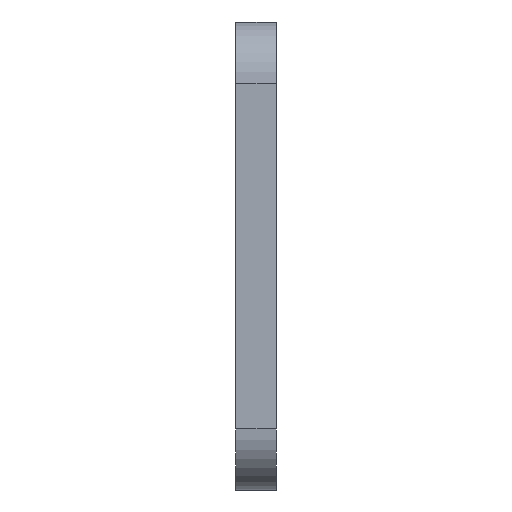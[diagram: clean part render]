
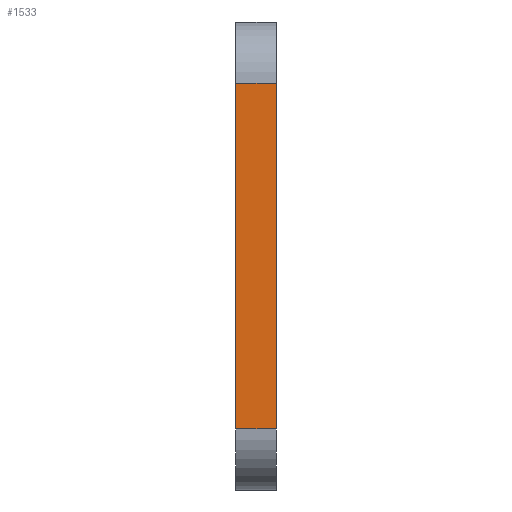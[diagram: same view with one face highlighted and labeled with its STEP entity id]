
A CAD part, left-side view. The second image highlights one B-rep face of the part: STEP entity #1533.
In plain terms, the highlighted planar face has unit normal (-1, 0, 0).
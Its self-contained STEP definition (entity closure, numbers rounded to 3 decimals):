
#33=DIRECTION('',(0.,0.,1.));
#34=VECTOR('',#33,8.5);
#35=CARTESIAN_POINT('',(-35.,0.,-4.25));
#36=LINE('',#35,#34);
#333=DIRECTION('',(0.,1.,0.));
#334=VECTOR('',#333,1.);
#335=CARTESIAN_POINT('',(-35.,0.,4.25));
#336=LINE('',#335,#334);
#337=DIRECTION('',(0.,1.,0.));
#338=VECTOR('',#337,1.);
#339=CARTESIAN_POINT('',(-35.,0.,-4.25));
#340=LINE('',#339,#338);
#370=DIRECTION('',(0.,0.,1.));
#371=VECTOR('',#370,8.5);
#372=CARTESIAN_POINT('',(-35.,1.,-4.25));
#373=LINE('',#372,#371);
#993=CARTESIAN_POINT('',(-35.,0.,4.25));
#995=VERTEX_POINT('',#993);
#1007=CARTESIAN_POINT('',(-35.,0.,-4.25));
#1008=VERTEX_POINT('',#1007);
#1157=CARTESIAN_POINT('',(-35.,1.,4.25));
#1159=VERTEX_POINT('',#1157);
#1171=CARTESIAN_POINT('',(-35.,1.,-4.25));
#1172=VERTEX_POINT('',#1171);
#1520=CARTESIAN_POINT('',(-35.,0.,-4.25));
#1521=DIRECTION('',(-1.,0.,0.));
#1522=DIRECTION('',(0.,0.,1.));
#1523=AXIS2_PLACEMENT_3D('',#1520,#1521,#1522);
#1524=PLANE('',#1523);
#1525=ORIENTED_EDGE('',*,*,#1340,.F.);
#1527=ORIENTED_EDGE('',*,*,#1526,.T.);
#1529=ORIENTED_EDGE('',*,*,#1528,.T.);
#1530=ORIENTED_EDGE('',*,*,#1511,.F.);
#1531=EDGE_LOOP('',(#1525,#1527,#1529,#1530));
#1532=FACE_OUTER_BOUND('',#1531,.F.);
#1533=ADVANCED_FACE('',(#1532),#1524,.T.);
#1340=EDGE_CURVE('',#1008,#995,#36,.T.);
#1511=EDGE_CURVE('',#995,#1159,#336,.T.);
#1526=EDGE_CURVE('',#1008,#1172,#340,.T.);
#1528=EDGE_CURVE('',#1172,#1159,#373,.T.);
